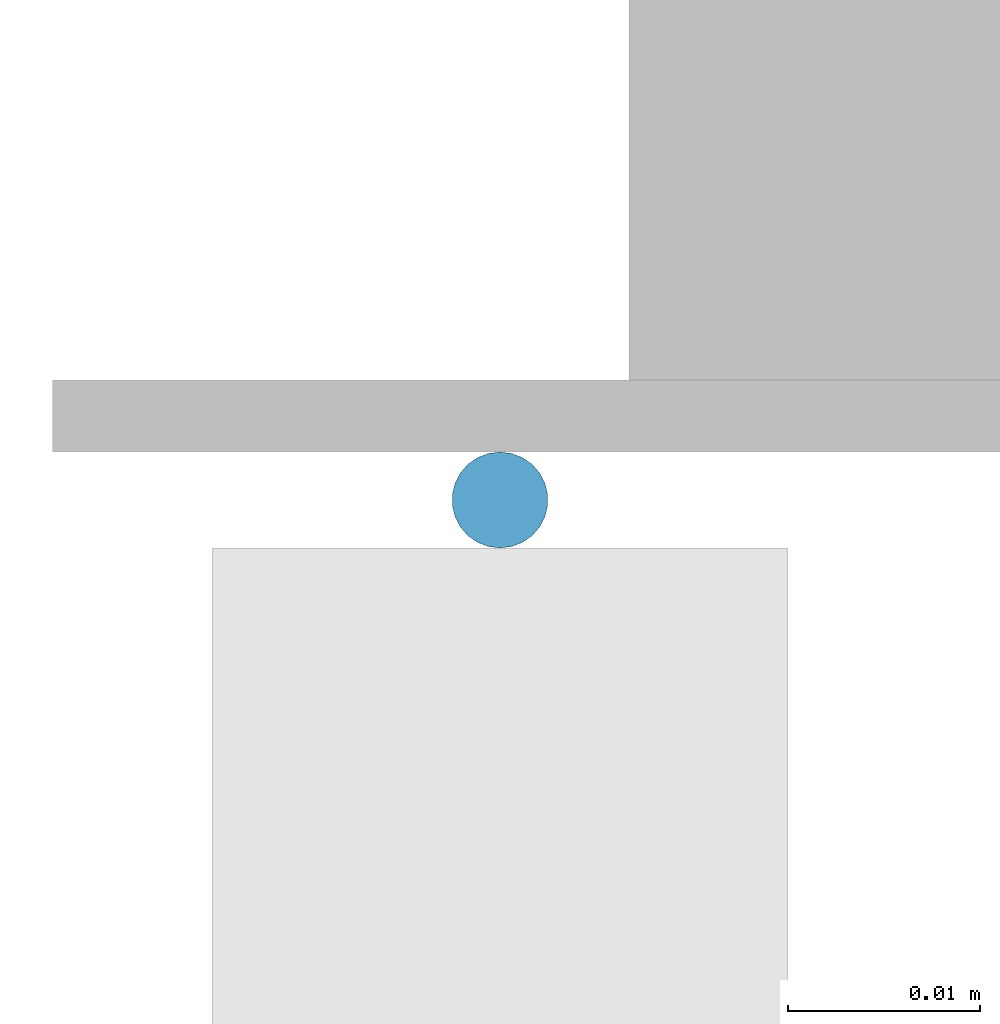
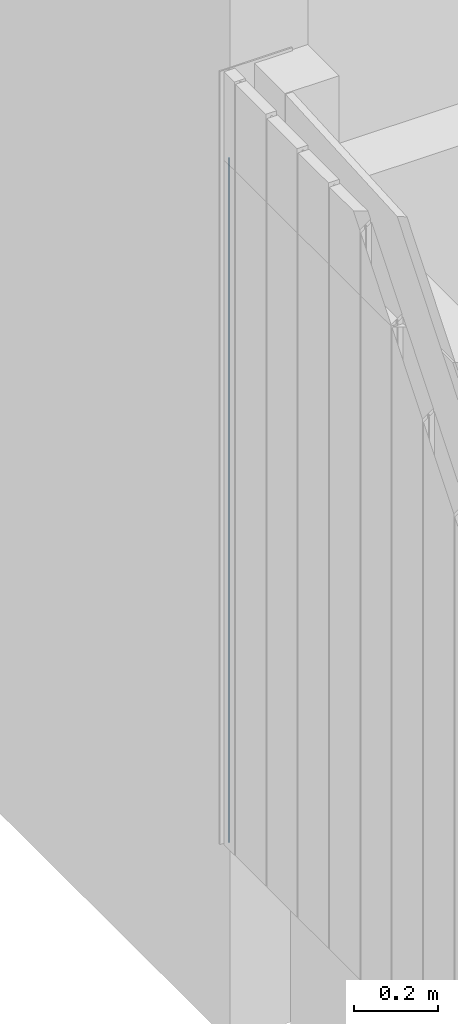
# One storey, part 51 of 81: 1 member, 1 element without a shape of its own.
"""IFC2X3 building model written with IfcOpenShell, lengths in metres."""

from ifc_helpers import new_model, entity, si_unit, converted_unit, derived_unit, direction, frame, frame_2d, origin, place, context, subcontext, project, spatial, circle, extrude, source, transform, mapped, material, type_object, type_shapes, element, aggregate, save


model = new_model("IFC2X3")

# Units and contexts
model_context = context("Model", 3, precision=1e-05, world=origin(), true_north=direction((6.12303176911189e-17, 1.0)))
body_context = subcontext(model_context, "Body", "Model", "MODEL_VIEW")
ifc_project = project(units=[si_unit("LENGTHUNIT", "METRE"), si_unit("AREAUNIT", "SQUARE_METRE"), si_unit("VOLUMEUNIT", "CUBIC_METRE"), converted_unit("PLANEANGLEUNIT", "DEGREE", entity("IfcRatioMeasure", 0.0174532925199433), si_unit("PLANEANGLEUNIT", "RADIAN"), dimensions=[0, 0, 0, 0, 0, 0, 0]), si_unit("MASSUNIT", "GRAM", prefix="KILO"), derived_unit("MASSDENSITYUNIT", [(si_unit("MASSUNIT", "GRAM", prefix="KILO"), 1), (si_unit("LENGTHUNIT", "METRE"), -3)]), derived_unit("MOMENTOFINERTIAUNIT", [(si_unit("LENGTHUNIT", "METRE"), 4)]), si_unit("TIMEUNIT", "SECOND"), si_unit("FREQUENCYUNIT", "HERTZ"), si_unit("THERMODYNAMICTEMPERATUREUNIT", "DEGREE_CELSIUS"), derived_unit("THERMALTRANSMITTANCEUNIT", [(si_unit("MASSUNIT", "GRAM", prefix="KILO"), 1), (si_unit("THERMODYNAMICTEMPERATUREUNIT", "KELVIN"), -1), (si_unit("TIMEUNIT", "SECOND"), -3)]), derived_unit("VOLUMETRICFLOWRATEUNIT", [(si_unit("LENGTHUNIT", "METRE"), 3), (si_unit("TIMEUNIT", "SECOND"), -1)]), si_unit("ELECTRICCURRENTUNIT", "AMPERE"), si_unit("ELECTRICVOLTAGEUNIT", "VOLT"), si_unit("POWERUNIT", "WATT"), si_unit("FORCEUNIT", "NEWTON", prefix="KILO"), si_unit("ILLUMINANCEUNIT", "LUX"), si_unit("LUMINOUSFLUXUNIT", "LUMEN"), si_unit("LUMINOUSINTENSITYUNIT", "CANDELA"), derived_unit("USERDEFINED", [(si_unit("MASSUNIT", "GRAM", prefix="KILO"), -1), (si_unit("LENGTHUNIT", "METRE"), -2), (si_unit("TIMEUNIT", "SECOND"), 3), (si_unit("LUMINOUSFLUXUNIT", "LUMEN"), 1)]), derived_unit("LINEARVELOCITYUNIT", [(si_unit("LENGTHUNIT", "METRE"), 1), (si_unit("TIMEUNIT", "SECOND"), -1)]), si_unit("PRESSUREUNIT", "PASCAL"), derived_unit("USERDEFINED", [(si_unit("LENGTHUNIT", "METRE"), -2), (si_unit("MASSUNIT", "GRAM", prefix="KILO"), 1), (si_unit("TIMEUNIT", "SECOND"), -2)]), derived_unit("LINEARFORCEUNIT", [(si_unit("MASSUNIT", "GRAM", prefix="KILO"), 1), (si_unit("LENGTHUNIT", "METRE"), 1), (si_unit("TIMEUNIT", "SECOND"), -2), (si_unit("LENGTHUNIT", "METRE"), -1)]), derived_unit("PLANARFORCEUNIT", [(si_unit("MASSUNIT", "GRAM", prefix="KILO"), 1), (si_unit("LENGTHUNIT", "METRE"), 1), (si_unit("TIMEUNIT", "SECOND"), -2), (si_unit("LENGTHUNIT", "METRE"), -2)])], contexts=[model_context])

# Site, building, storey
site_placement = place(None, origin())
site = spatial("IfcSite", under=ifc_project, at=site_placement, Name="Surface", CompositionType="ELEMENT")
building_placement = place(site_placement, origin())
building = spatial("IfcBuilding", under=site, at=building_placement, CompositionType="ELEMENT")
storey_placement = place(building_placement, origin())
storey = spatial("IfcBuildingStorey", under=building, at=storey_placement, Name="01 RDC", CompositionType="ELEMENT", Elevation=-1.94916083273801e-14)

# Curtain wall, member
curtain_wall_type = type_object("IfcCurtainWallType", Name="Mur-rideau:1m x 2m", PredefinedType="NOTDEFINED")
curtain_wall_placement = place(storey_placement, origin())
curtain_wall = element("IfcCurtainWall", 1, at=curtain_wall_placement, inside=storey, type_object=curtain_wall_type, Name="Mur-rideau:1m x 2m", ObjectType="Mur-rideau:1m x 2m")
ifc_material = material(Name="Aluminium - Vert")
member_type = type_object("IfcMemberType", Name="Meneau circulaire:R-30 mm", PredefinedType="MULLION", material=ifc_material)
shared_shape = source(origin(), body_context, "Body", "SweptSolid", [
    extrude(circle(Radius=0.0025, at=frame_2d((-5.2874372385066e-19, 3.23507860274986e-15), x_axis=(1.0, 0.0))), frame((-0.0025, 0.0, -2.0), z_axis=(0.0, 0.0, 1.0), x_axis=(-1.0, 0.0, 0.0)), (0.0, 0.0, 1.0), 2.0),
])
type_shapes(member_type, [shared_shape])
member_placement = place(storey_placement, frame((5.45983615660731, -3.69971095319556, 0.3), z_axis=(0.0, 0.0, -1.0), x_axis=(0.0, 1.0, 0.0)))
member = element("IfcMember", 2, at=member_placement, type_object=member_type, material=ifc_material, Name="Meneau circulaire:R-30 mm", ObjectType="Meneau circulaire:R-30 mm", context=body_context, shape_type="MappedRepresentation", body=[
    mapped(shared_shape, transform((0.0, 0.0, 0.0), scale=1.0)),
])
aggregate(curtain_wall, [member])

save(model, "model.ifc")
